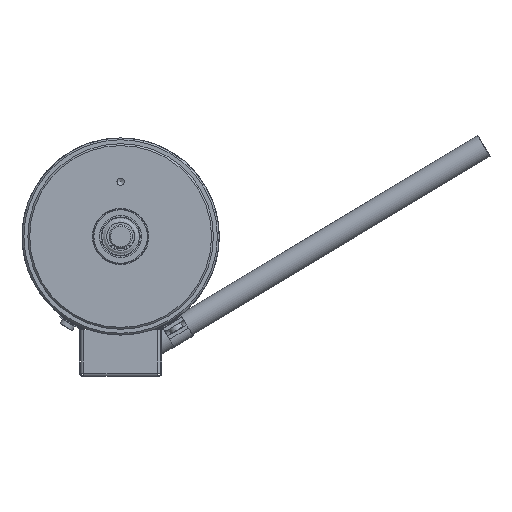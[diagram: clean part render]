
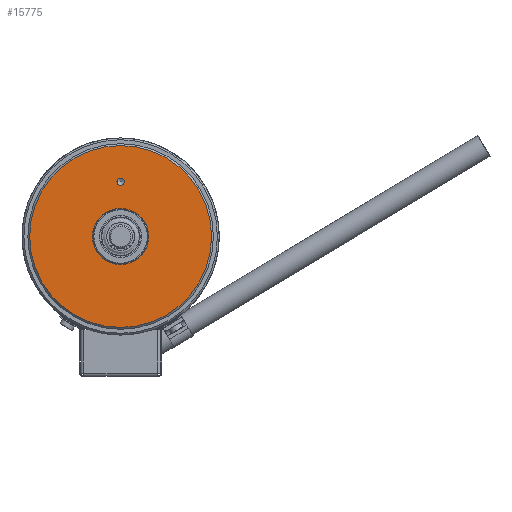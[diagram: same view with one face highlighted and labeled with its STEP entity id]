
A CAD part, left-side view. The second image highlights one B-rep face of the part: STEP entity #15775.
In plain terms, the highlighted planar face has unit normal (-1, 0, 0).
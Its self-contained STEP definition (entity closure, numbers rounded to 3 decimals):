
#3897=PLANE('',#21133);
#4501=ORIENTED_EDGE('',*,*,#9011,.T.);
#4502=ORIENTED_EDGE('',*,*,#9012,.T.);
#4503=ORIENTED_EDGE('',*,*,#9009,.F.);
#9009=EDGE_CURVE('',#11264,#11264,#12814,.T.);
#9011=EDGE_CURVE('',#11266,#11266,#12816,.T.);
#9012=EDGE_CURVE('',#11267,#11267,#12817,.T.);
#11264=VERTEX_POINT('',#26535);
#11266=VERTEX_POINT('',#26540);
#11267=VERTEX_POINT('',#26542);
#12814=CIRCLE('',#21131,3.85);
#12816=CIRCLE('',#21134,0.5);
#12817=CIRCLE('',#21135,12.45);
#13204=EDGE_LOOP('',(#4501));
#13205=EDGE_LOOP('',(#4502));
#13206=EDGE_LOOP('',(#4503));
#14387=FACE_BOUND('',#13204,.T.);
#14388=FACE_BOUND('',#13205,.T.);
#14389=FACE_BOUND('',#13206,.T.);
#15775=ADVANCED_FACE('',(#14387,#14388,#14389),#3897,.T.);
#21131=AXIS2_PLACEMENT_3D('',#26534,#22429,#22430);
#21133=AXIS2_PLACEMENT_3D('',#26538,#22433,#22434);
#21134=AXIS2_PLACEMENT_3D('',#26539,#22435,#22436);
#21135=AXIS2_PLACEMENT_3D('',#26541,#22437,#22438);
#22429=DIRECTION('',(-1.,0.,0.));
#22430=DIRECTION('',(0.,0.,1.));
#22433=DIRECTION('',(-1.,0.,0.));
#22434=DIRECTION('',(0.,0.,1.));
#22435=DIRECTION('',(1.,0.,0.));
#22436=DIRECTION('',(0.,0.,1.));
#22437=DIRECTION('',(-1.,0.,0.));
#22438=DIRECTION('',(0.,0.,1.));
#26534=CARTESIAN_POINT('',(0.,0.,0.));
#26535=CARTESIAN_POINT('',(0.,0.,3.85));
#26538=CARTESIAN_POINT('',(0.,3.85,0.));
#26539=CARTESIAN_POINT('',(0.,0.,7.5));
#26540=CARTESIAN_POINT('',(0.,0.,8.));
#26541=CARTESIAN_POINT('',(0.,0.,0.));
#26542=CARTESIAN_POINT('',(0.,0.,12.45));
